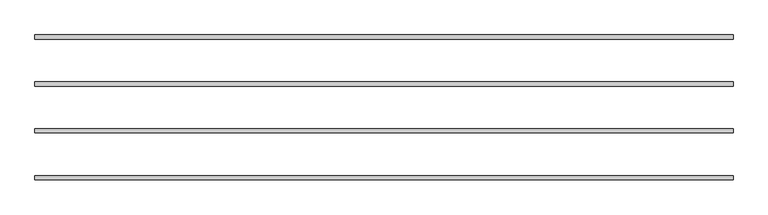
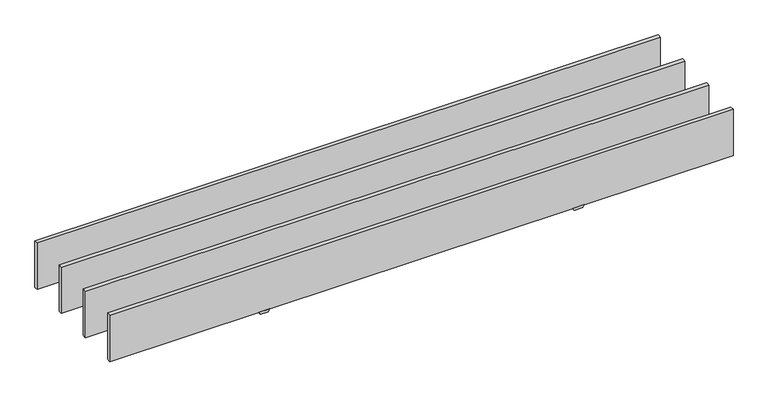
"""IFC4 building model written with IfcOpenShell, lengths in millimetres: proxy geometry."""

import ifcopenshell
import ifcopenshell.guid

model = None  # the IFC model being written
_history = None  # IfcOwnerHistory: only IFC2X3 demands one
_inside = {}  # id of a spatial element -> (the spatial element, [elements in it])
_under = {}  # id of a project, library or spatial element -> (it, [spatial elements below it])
_declared = {}  # id of a project -> (the project, [libraries it declares])
_typed = {}  # id of a type object -> (the type object, [elements of that type])
_made_of = {}  # id of a material, layer set ... -> (it, [elements and type objects made of it])


def new_model(schema):
    """Start an empty IFC model of exactly this schema.

    Asked for "IFC4X3", IfcOpenShell would pick the latest addendum, in which some entities
    have other attributes; the version numbers below select the first issue.
    IFC2X3 requires an IfcOwnerHistory on every rooted entity: one is made here for all.
    """
    global model, _history
    if schema == "IFC4X3":
        model = ifcopenshell.file(schema_version=(4, 3, 0, 0))
    else:
        model = ifcopenshell.file(schema=schema)
    _inside.clear()
    _under.clear()
    _declared.clear()
    _typed.clear()
    _made_of.clear()
    _history = None
    if model.schema == "IFC2X3":
        org = make("IfcOrganization", Name="unknown")
        user = make(
            "IfcPersonAndOrganization",
            ThePerson=make("IfcPerson", FamilyName="unknown"),
            TheOrganization=org,
        )
        app = make(
            "IfcApplication",
            ApplicationDeveloper=org,
            Version="unknown",
            ApplicationFullName="unknown",
            ApplicationIdentifier="unknown",
        )
        _history = make(
            "IfcOwnerHistory",
            OwningUser=user,
            OwningApplication=app,
            ChangeAction="ADDED",
            CreationDate=0,
        )
    return model


def make(cls, **values):
    """One entity of the class cls with the attributes given. An attribute that is None is left unset."""
    return model.create_entity(
        cls, **{name: value for name, value in values.items() if value is not None}
    )


def rooted(cls, **values):
    """An entity with a GlobalId (a new one), such as an element, a storey or a relation."""
    return make(cls, GlobalId=ifcopenshell.guid.new(), OwnerHistory=_history, **values)


def si_unit(unit_type, name, prefix=None):
    """IfcSIUnit, for example si_unit("LENGTHUNIT", "METRE", prefix="MILLI")."""
    return make("IfcSIUnit", UnitType=unit_type, Prefix=prefix, Name=name)


def assignment(units):
    """IfcUnitAssignment: the units of a project."""
    return None if units is None else make("IfcUnitAssignment", Units=units)


def point(xyz):
    """IfcCartesianPoint."""
    return None if xyz is None else make("IfcCartesianPoint", Coordinates=xyz)


def direction(xyz):
    """IfcDirection."""
    return None if xyz is None else make("IfcDirection", DirectionRatios=xyz)


def frame(location, z_axis=None, x_axis=None):
    """IfcAxis2Placement3D, a coordinate frame: its origin and axes. An axis left out is left unset."""
    return make(
        "IfcAxis2Placement3D",
        Location=point(location),
        Axis=direction(z_axis),
        RefDirection=direction(x_axis),
    )


def origin():
    """The frame at (0, 0, 0) with its axes left unset."""
    return frame((0.0, 0.0, 0.0))


def origin_with_axes():
    """The frame at (0, 0, 0) with the z axis (0, 0, 1) and the x axis (1, 0, 0) written out."""
    return frame((0.0, 0.0, 0.0), z_axis=(0.0, 0.0, 1.0), x_axis=(1.0, 0.0, 0.0))


def place(relative_to, where):
    """IfcLocalPlacement: puts the frame where relative to a parent placement (None: the world)."""
    return make(
        "IfcLocalPlacement", PlacementRelTo=relative_to, RelativePlacement=where
    )


def context(
    kind, dimensions, precision=None, world=None, true_north=None, identifier=None
):
    """IfcGeometricRepresentationContext, for example the 3D "Model" context."""
    return make(
        "IfcGeometricRepresentationContext",
        ContextIdentifier=identifier,
        ContextType=kind,
        CoordinateSpaceDimension=dimensions,
        Precision=precision,
        WorldCoordinateSystem=world,
        TrueNorth=true_north,
    )


def project(units=None, contexts=None):
    """IfcProject with its units and contexts."""
    return rooted(
        "IfcProject",
        Name="project",
        RepresentationContexts=contexts,
        UnitsInContext=assignment(units),
    )


def spatial(cls, under=None, at=None, **own):
    """A site, building, storey or space (cls), placed at a placement, below another one or the project."""
    s = rooted(cls, ObjectPlacement=at, **own)
    if under is not None:
        _under.setdefault(under.id(), (under, []))[1].append(s)
    return s


def polyline(points):
    """IfcPolyline through the points."""
    return make("IfcPolyline", Points=[point(p) for p in points])


def outline(outer, holes=None, kind="AREA"):
    """IfcArbitraryClosedProfileDef: a profile drawn as a closed curve; with holes, ...WithVoids."""
    if holes is None:
        return make("IfcArbitraryClosedProfileDef", ProfileType=kind, OuterCurve=outer)
    return make(
        "IfcArbitraryProfileDefWithVoids",
        ProfileType=kind,
        OuterCurve=outer,
        InnerCurves=holes,
    )


def extrude(swept, where, along, depth):
    """IfcExtrudedAreaSolid: the profile swept, set in the frame where, extruded along a direction by depth."""
    return make(
        "IfcExtrudedAreaSolid",
        SweptArea=swept,
        Position=where,
        ExtrudedDirection=direction(along),
        Depth=depth,
    )


def shape(context_of_items, identifier, shape_type, items):
    """IfcShapeRepresentation: the items that make up one representation, for example the "Body"."""
    return make(
        "IfcShapeRepresentation",
        ContextOfItems=context_of_items,
        RepresentationIdentifier=identifier,
        RepresentationType=shape_type,
        Items=items,
    )


def source(mapping_origin, context_of_items, identifier, shape_type, items):
    """IfcRepresentationMap: a shape defined once, which mapped items show again and again."""
    return make(
        "IfcRepresentationMap",
        MappingOrigin=mapping_origin,
        MappedRepresentation=shape(context_of_items, identifier, shape_type, items),
    )


def transform(
    local_origin,
    x_axis=None,
    y_axis=None,
    z_axis=None,
    scale=None,
    scale2=None,
    scale3=None,
    uniform=True,
):
    """IfcCartesianTransformationOperator3D, or its non-uniform kind. x_axis, y_axis, z_axis: its Axis1, 2, 3."""
    if uniform:
        return make(
            "IfcCartesianTransformationOperator3D",
            Axis1=direction(x_axis),
            Axis2=direction(y_axis),
            LocalOrigin=point(local_origin),
            Scale=scale,
            Axis3=direction(z_axis),
        )
    return make(
        "IfcCartesianTransformationOperator3DnonUniform",
        Axis1=direction(x_axis),
        Axis2=direction(y_axis),
        LocalOrigin=point(local_origin),
        Scale=scale,
        Axis3=direction(z_axis),
        Scale2=scale2,
        Scale3=scale3,
    )


def mapped(mapping_source, mapping_target):
    """IfcMappedItem: shows the shape of a source again, moved by a transform."""
    return make(
        "IfcMappedItem", MappingSource=mapping_source, MappingTarget=mapping_target
    )


def made_of(thing, what):
    """Note that an element or type object is made of a material, layer set ...; save() writes the relation."""
    if what is not None:
        _made_of.setdefault(what.id(), (what, []))[1].append(thing)
    return thing


def element(
    cls,
    number,
    at=None,
    inside=None,
    cuts=None,
    type_object=None,
    material=None,
    context=None,
    identifier="Body",
    shape_type=None,
    held_by="IfcProductDefinitionShape",
    body=None,
    shapes=None,
    **own,
):
    """One element of the class cls, such as IfcWall. Its Tag is "e" and its number.

    at: its placement. inside: the storey or other place that contains it. cuts: it is an
    opening in that element (IfcRelVoidsElement). A single representation is given by context,
    identifier, shape_type and body (its items); several are given by shapes. held_by: the class
    of the entity that holds the representations. save() writes the other relations.
    """
    e = rooted(cls, Tag="e%d" % number, ObjectPlacement=at, **own)
    if body is not None:
        shapes = [shape(context, identifier, shape_type, body)]
    if shapes is not None:
        e.Representation = make(held_by, Representations=shapes)
    if inside is not None:
        _inside.setdefault(inside.id(), (inside, []))[1].append(e)
    if cuts is not None:
        rooted(
            "IfcRelVoidsElement", RelatingBuildingElement=cuts, RelatedOpeningElement=e
        )
    if type_object is not None:
        _typed.setdefault(type_object.id(), (type_object, []))[1].append(e)
    return made_of(e, material)


def aggregate(whole, parts):
    """IfcRelAggregates: a whole, such as a stair, and the parts it consists of."""
    return rooted("IfcRelAggregates", RelatingObject=whole, RelatedObjects=parts)


def save(model, path):
    """Write the relations noted so far, then the file.

    IfcRelAggregates (storeys below a building ...), IfcRelContainedInSpatialStructure (elements
    in a storey), IfcRelDefinesByType, IfcRelAssociatesMaterial and IfcRelDeclares: one each for
    every whole, place, type object, material and project.
    """
    for whole, parts in _under.values():
        aggregate(whole, parts)
    for where, things in _inside.values():
        rooted(
            "IfcRelContainedInSpatialStructure",
            RelatedElements=things,
            RelatingStructure=where,
        )
    for kind, things in _typed.values():
        rooted("IfcRelDefinesByType", RelatedObjects=things, RelatingType=kind)
    for what, things in _made_of.values():
        rooted("IfcRelAssociatesMaterial", RelatedObjects=things, RelatingMaterial=what)
    for by, libraries in _declared.values():
        rooted("IfcRelDeclares", RelatingContext=by, RelatedDefinitions=libraries)
    model.write(path)


def specialty_equipment_922f5293(model_context):
    return source(origin(), model_context, "Body", "SweptSolid", [
        extrude(outline(polyline([(0.0, 735.0125), (-12.7, 742.3448484), (-12.7, 781.6551516), (0.0, 788.9875), (0.0, 735.0125)])), frame((0.0, 600.59951, 0.0), z_axis=(0.0, 1.0, 0.0), x_axis=(0.0, 0.0, 1.0)), (0.0, 0.0, 1.0), 18.00098),
        extrude(outline(polyline([(0.0, -788.9875), (-12.7, -781.6551516), (-12.7, -742.3448484), (0.0, -735.0125), (0.0, -788.9875)])), frame((0.0, 600.59951, 0.0), z_axis=(0.0, 1.0, 0.0), x_axis=(0.0, 0.0, 1.0)), (0.0, 0.0, 1.0), 18.00098),
        extrude(outline(polyline([(-1511.3, 600.59951), (-1511.3, 618.60049), (1511.3, 618.60049), (1511.3, 600.59951), (-1511.3, 600.59951)])), origin_with_axes(), (0.0, 0.0, 1.0), 238.125),
        extrude(outline(polyline([(0.0, 735.0125), (-12.7, 742.3448484), (-12.7, 781.6551516), (0.0, 788.9875), (0.0, 735.0125)])), frame((0.0, 397.39951, 0.0), z_axis=(0.0, 1.0, 0.0), x_axis=(0.0, 0.0, 1.0)), (0.0, 0.0, 1.0), 18.00098),
        extrude(outline(polyline([(0.0, -788.9875), (-12.7, -781.6551516), (-12.7, -742.3448484), (0.0, -735.0125), (0.0, -788.9875)])), frame((0.0, 397.39951, 0.0), z_axis=(0.0, 1.0, 0.0), x_axis=(0.0, 0.0, 1.0)), (0.0, 0.0, 1.0), 18.00098),
        extrude(outline(polyline([(-1511.3, 397.39951), (-1511.3, 415.40049), (1511.3, 415.40049), (1511.3, 397.39951), (-1511.3, 397.39951)])), origin_with_axes(), (0.0, 0.0, 1.0), 238.125),
        extrude(outline(polyline([(0.0, 735.0125), (-12.7, 742.3448484), (-12.7, 781.6551516), (0.0, 788.9875), (0.0, 735.0125)])), frame((0.0, 194.19951, 0.0), z_axis=(0.0, 1.0, 0.0), x_axis=(0.0, 0.0, 1.0)), (0.0, 0.0, 1.0), 18.00098),
        extrude(outline(polyline([(0.0, -788.9875), (-12.7, -781.6551516), (-12.7, -742.3448484), (0.0, -735.0125), (0.0, -788.9875)])), frame((0.0, 194.19951, 0.0), z_axis=(0.0, 1.0, 0.0), x_axis=(0.0, 0.0, 1.0)), (0.0, 0.0, 1.0), 18.00098),
        extrude(outline(polyline([(-1511.3, 194.19951), (-1511.3, 212.20049), (1511.3, 212.20049), (1511.3, 194.19951), (-1511.3, 194.19951)])), origin_with_axes(), (0.0, 0.0, 1.0), 238.125),
        extrude(outline(polyline([(0.0, 735.0125), (-12.7, 742.3448484), (-12.7, 781.6551516), (0.0, 788.9875), (0.0, 735.0125)])), frame((0.0, -9.00049, 0.0), z_axis=(0.0, 1.0, 0.0), x_axis=(0.0, 0.0, 1.0)), (0.0, 0.0, 1.0), 18.00098),
        extrude(outline(polyline([(0.0, -788.9875), (-12.7, -781.6551516), (-12.7, -742.3448484), (0.0, -735.0125), (0.0, -788.9875)])), frame((0.0, -9.00049, 0.0), z_axis=(0.0, 1.0, 0.0), x_axis=(0.0, 0.0, 1.0)), (0.0, 0.0, 1.0), 18.00098),
        extrude(outline(polyline([(-1511.3, -9.00049), (-1511.3, 9.00049), (1511.3, 9.00049), (1511.3, -9.00049), (-1511.3, -9.00049)])), origin_with_axes(), (0.0, 0.0, 1.0), 238.125),
    ])


if __name__ == "__main__":
    model = new_model("IFC4")
    model_context = context("Model", 3, world=origin())
    ifc_project = project(units=[si_unit("LENGTHUNIT", "METRE", prefix="MILLI")], contexts=[model_context])
    site = spatial("IfcSite", under=ifc_project)
    building = spatial("IfcBuilding", under=site)
    placement = place(None, origin())
    specialty_equipment_shape = specialty_equipment_922f5293(model_context)
    element("IfcBuildingElementProxy", 1, Name="SE_TIMBER BAFFLE_MULTI-SYSTEM_FB_TURF : 119\" - GRIDLOCK", ObjectType="SE_TIMBER BAFFLE_MULTI-SYSTEM_FB_TURF : 119\" - GRIDLOCK", at=placement, inside=building, context=model_context, shape_type="MappedRepresentation", body=[
        mapped(specialty_equipment_shape, transform((0.0, 0.0, 0.0), x_axis=(1.0, 0.0, 0.0), y_axis=(0.0, 1.0, 0.0), z_axis=(0.0, 0.0, 1.0))),
    ])
    save(model, "model.ifc")
